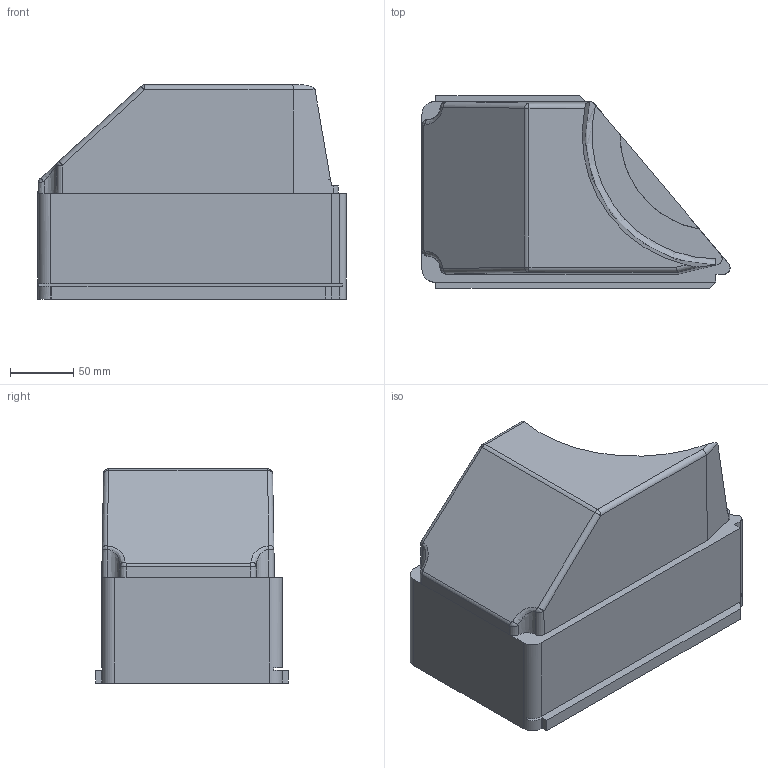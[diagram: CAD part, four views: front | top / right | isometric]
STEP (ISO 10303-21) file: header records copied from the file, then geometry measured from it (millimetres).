
FILE_DESCRIPTION(('STEP AP203'), '1');
FILE_NAME('15 Âñòàâêà', '', ('UNSPECIFIED'), ('UNSPECIFIED'), 'C3D Converter', 'C3D Toolkit', '');
FILE_SCHEMA(('CONFIG_CONTROL_DESIGN'));
Length unit declared in the file: millimetre
Products named in the file (1):  295 106/15
Bounding box: 242.76 x 152 x 168.8 mm (x, y, z)
Volume: 3606270.3 mm3; surface area: 161785.3 mm2
Topology: 1 solids, 1 shells, 68 faces, 175 edges, 107 vertices
Faces by surface type: plane 37, cylinder 12, cone 10, bspline 8, torus 1
Entity records: 4036 total; most frequent: CARTESIAN_POINT 1889, ORIENTED_EDGE 346, DIRECTION 294, EDGE_CURVE 173, VERTEX_POINT 107, LINE 106, VECTOR 106, AXIS2_PLACEMENT_3D 94
